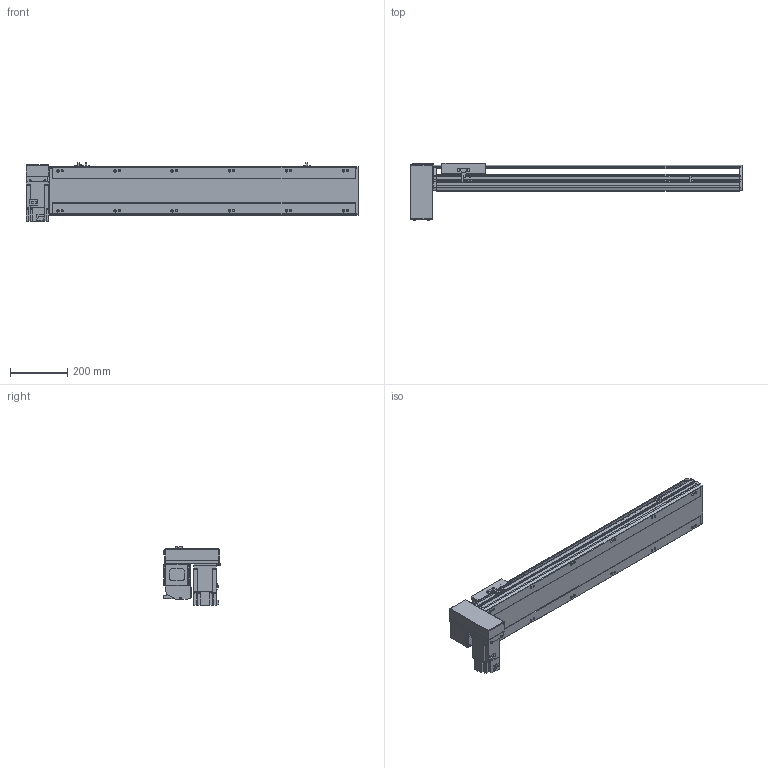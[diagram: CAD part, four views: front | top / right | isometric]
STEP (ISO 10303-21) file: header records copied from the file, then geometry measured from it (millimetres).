
FILE_DESCRIPTION(/* description */ ('STEP AP214'),/* implementation_level */ '2;1');
FILE_NAME(/* name */ 'PBS170-P40-S800-RD-T75-C1-N(0)',/* time_stamp */ '2022-06-08T07:34:50+02:00',/* author */ ('License CC BY-ND 4.0'),/* organization */ ('CADENAS'),/* preprocessor_version */ 'ST-DEVELOPER v18.102',/* originating_system */ 'PARTsolutions',/* authorisation */ ' ');
FILE_SCHEMA (('AUTOMOTIVE_DESIGN {1 0 10303 214 3 1 1}'));
Length unit declared in the file: millimetre
Products named in the file (7): PBS170-P40-S800-RD-T75-C1-N(0); PBS170_sensor; PBS170_plant; PBS170_sliser; T75-p1; PBS170T-RD_motors; PBS170-S800()_body
Assembly tree (8 placements, depth 2):
  PBS170-P40-S800-RD-T75-C1-N(0)
    PBS170_sensor  x3
    PBS170_plant
    PBS170_sliser
    T75-p1
    PBS170T-RD_motors
    PBS170-S800()_body
Bounding box: 1163 x 201 x 205.3 mm (x, y, z)
Volume: 9567605.3 mm3; surface area: 1267361.5 mm2
Topology: 8 solids, 8 shells, 1050 faces, 2795 edges, 1822 vertices
Faces by surface type: plane 675, cylinder 323, cone 42, sphere 8, torus 2
Full cylindrical faces by diameter (mm): 3.242 x4, 4 x2, 4.4 x4, 4.5 x6, 4.917 x4, 6 x9, 6.647 x20, 7 x2, 7.5 x4, 8 x8, 8.5 x12, 10 x4, 10.5 x12, 11 x2, 30 x2, 40 x1, 70 x1
Entity records: 30202 total; most frequent: CARTESIAN_POINT 5489, DIRECTION 5160, ORIENTED_EDGE 4908, EDGE_CURVE 2454, AXIS2_PLACEMENT_3D 1777, VERTEX_POINT 1682, LINE 1606, VECTOR 1606
